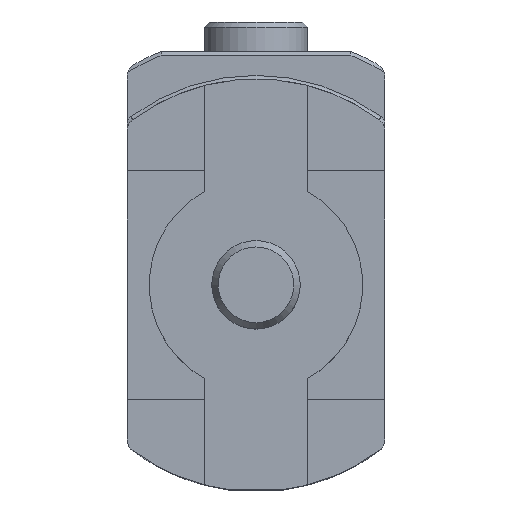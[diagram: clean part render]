
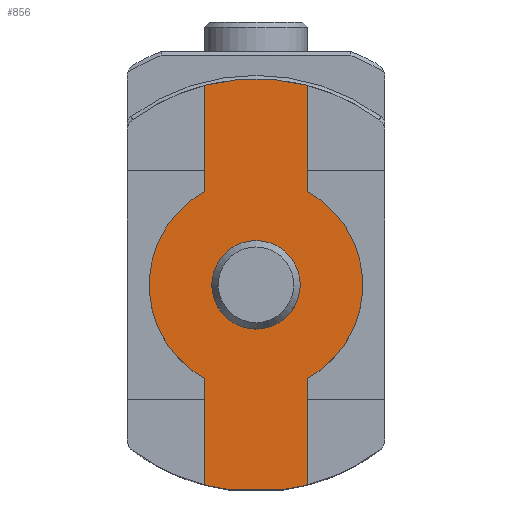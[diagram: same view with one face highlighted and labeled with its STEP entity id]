
A CAD part, top view. The second image highlights one B-rep face of the part: STEP entity #856.
In plain terms, the highlighted planar face has unit normal (0, 0, 1).
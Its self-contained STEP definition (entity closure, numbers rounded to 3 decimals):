
#7 = ORIENTED_EDGE ( 'NONE', *, *, #1195, .T. ) ;
#45 = CIRCLE ( 'NONE', #1718, 14.5 ) ;
#52 = CIRCLE ( 'NONE', #95, 28. ) ;
#63 = DIRECTION ( 'NONE',  ( 0., 0., 1. ) ) ;
#76 = DIRECTION ( 'NONE',  ( 1., 0., 0. ) ) ;
#88 = EDGE_CURVE ( 'NONE', #1510, #1030, #1877, .T. ) ;
#95 = AXIS2_PLACEMENT_3D ( 'NONE', #269, #1270, #2079 ) ;
#101 = DIRECTION ( 'NONE',  ( 1., 0., 0. ) ) ;
#115 = CARTESIAN_POINT ( 'NONE',  ( 7., -12.698, 45.5 ) ) ;
#149 = VERTEX_POINT ( 'NONE', #271 ) ;
#226 = CARTESIAN_POINT ( 'NONE',  ( 7., 12.698, 45.5 ) ) ;
#250 = ORIENTED_EDGE ( 'NONE', *, *, #945, .T. ) ;
#269 = CARTESIAN_POINT ( 'NONE',  ( 0., 0., 45.5 ) ) ;
#271 = CARTESIAN_POINT ( 'NONE',  ( 7., 27.111, 45.5 ) ) ;
#306 = LINE ( 'NONE', #1099, #1986 ) ;
#310 = CIRCLE ( 'NONE', #683, 5. ) ;
#314 = VECTOR ( 'NONE', #815, 1000. ) ;
#459 = VERTEX_POINT ( 'NONE', #226 ) ;
#490 = EDGE_CURVE ( 'NONE', #649, #459, #1052, .T. ) ;
#525 = EDGE_CURVE ( 'NONE', #2553, #2553, #310, .T. ) ;
#532 = CARTESIAN_POINT ( 'NONE',  ( -7., 12.698, 45.5 ) ) ;
#537 = CARTESIAN_POINT ( 'NONE',  ( -3.733, -27.75, 45.5 ) ) ;
#563 = VECTOR ( 'NONE', #1967, 1000. ) ;
#601 = PLANE ( 'NONE',  #2535 ) ;
#633 = CARTESIAN_POINT ( 'NONE',  ( 7., 12.698, 45.5 ) ) ;
#649 = VERTEX_POINT ( 'NONE', #115 ) ;
#683 = AXIS2_PLACEMENT_3D ( 'NONE', #1238, #2049, #101 ) ;
#691 = ORIENTED_EDGE ( 'NONE', *, *, #490, .T. ) ;
#771 = AXIS2_PLACEMENT_3D ( 'NONE', #2085, #2246, #1224 ) ;
#775 = EDGE_CURVE ( 'NONE', #1096, #2162, #306, .T. ) ;
#782 = ORIENTED_EDGE ( 'NONE', *, *, #1530, .T. ) ;
#801 = VECTOR ( 'NONE', #2501, 1000. ) ;
#815 = DIRECTION ( 'NONE',  ( 0., 1., 0. ) ) ;
#854 = CARTESIAN_POINT ( 'NONE',  ( 0., 0., 45.5 ) ) ;
#856 = ADVANCED_FACE ( 'NONE', ( #999, #1375 ), #601, .T. ) ;
#875 = DIRECTION ( 'NONE',  ( 1., 0., 0. ) ) ;
#932 = LINE ( 'NONE', #1745, #563 ) ;
#945 = EDGE_CURVE ( 'NONE', #149, #1673, #1395, .T. ) ;
#948 = ORIENTED_EDGE ( 'NONE', *, *, #2351, .T. ) ;
#987 = ORIENTED_EDGE ( 'NONE', *, *, #88, .T. ) ;
#999 = FACE_BOUND ( 'NONE', #2229, .T. ) ;
#1030 = VERTEX_POINT ( 'NONE', #1293 ) ;
#1052 = CIRCLE ( 'NONE', #1818, 14.5 ) ;
#1082 = ORIENTED_EDGE ( 'NONE', *, *, #525, .F. ) ;
#1096 = VERTEX_POINT ( 'NONE', #537 ) ;
#1099 = CARTESIAN_POINT ( 'NONE',  ( -3.733, -27.75, 45.5 ) ) ;
#1124 = CIRCLE ( 'NONE', #2225, 28. ) ;
#1170 = DIRECTION ( 'NONE',  ( 0., 0., 1. ) ) ;
#1195 = EDGE_CURVE ( 'NONE', #459, #149, #1426, .T. ) ;
#1208 = DIRECTION ( 'NONE',  ( 1., 0., 0. ) ) ;
#1224 = DIRECTION ( 'NONE',  ( 1., 0., 0. ) ) ;
#1238 = CARTESIAN_POINT ( 'NONE',  ( 0., 0., 45.5 ) ) ;
#1241 = CARTESIAN_POINT ( 'NONE',  ( -7., -27.111, 45.5 ) ) ;
#1270 = DIRECTION ( 'NONE',  ( 0., 0., 1. ) ) ;
#1273 = CARTESIAN_POINT ( 'NONE',  ( 7., -27.111, 45.5 ) ) ;
#1293 = CARTESIAN_POINT ( 'NONE',  ( -7., -27.111, 45.5 ) ) ;
#1299 = DIRECTION ( 'NONE',  ( 0., 0., 1. ) ) ;
#1312 = DIRECTION ( 'NONE',  ( 1., 0., 0. ) ) ;
#1325 = CARTESIAN_POINT ( 'NONE',  ( 7., -27.111, 45.5 ) ) ;
#1332 = EDGE_CURVE ( 'NONE', #1857, #649, #2307, .T. ) ;
#1375 = FACE_OUTER_BOUND ( 'NONE', #2534, .T. ) ;
#1395 = CIRCLE ( 'NONE', #771, 28. ) ;
#1403 = CARTESIAN_POINT ( 'NONE',  ( 0., 0., 45.5 ) ) ;
#1414 = DIRECTION ( 'NONE',  ( 1., 0., 0. ) ) ;
#1426 = LINE ( 'NONE', #633, #314 ) ;
#1510 = VERTEX_POINT ( 'NONE', #2362 ) ;
#1530 = EDGE_CURVE ( 'NONE', #1673, #1844, #932, .T. ) ;
#1557 = ORIENTED_EDGE ( 'NONE', *, *, #2579, .T. ) ;
#1673 = VERTEX_POINT ( 'NONE', #2222 ) ;
#1693 = CARTESIAN_POINT ( 'NONE',  ( 3.733, -27.75, 45.5 ) ) ;
#1718 = AXIS2_PLACEMENT_3D ( 'NONE', #854, #1299, #76 ) ;
#1743 = EDGE_CURVE ( 'NONE', #1844, #1510, #45, .T. ) ;
#1745 = CARTESIAN_POINT ( 'NONE',  ( -7., 12.698, 45.5 ) ) ;
#1767 = CARTESIAN_POINT ( 'NONE',  ( 5., 0., 45.5 ) ) ;
#1818 = AXIS2_PLACEMENT_3D ( 'NONE', #2461, #63, #875 ) ;
#1839 = ORIENTED_EDGE ( 'NONE', *, *, #775, .T. ) ;
#1844 = VERTEX_POINT ( 'NONE', #532 ) ;
#1857 = VERTEX_POINT ( 'NONE', #1325 ) ;
#1877 = LINE ( 'NONE', #1241, #801 ) ;
#1879 = ORIENTED_EDGE ( 'NONE', *, *, #1743, .T. ) ;
#1967 = DIRECTION ( 'NONE',  ( 0., -1., 0. ) ) ;
#1986 = VECTOR ( 'NONE', #1312, 1000. ) ;
#1987 = DIRECTION ( 'NONE',  ( 0., 0., 1. ) ) ;
#2049 = DIRECTION ( 'NONE',  ( 0., 0., 1. ) ) ;
#2071 = VECTOR ( 'NONE', #2515, 1000. ) ;
#2079 = DIRECTION ( 'NONE',  ( 1., 0., 0. ) ) ;
#2085 = CARTESIAN_POINT ( 'NONE',  ( 0., 0., 45.5 ) ) ;
#2162 = VERTEX_POINT ( 'NONE', #1693 ) ;
#2222 = CARTESIAN_POINT ( 'NONE',  ( -7., 27.111, 45.5 ) ) ;
#2225 = AXIS2_PLACEMENT_3D ( 'NONE', #2411, #1170, #1414 ) ;
#2229 = EDGE_LOOP ( 'NONE', ( #1082 ) ) ;
#2246 = DIRECTION ( 'NONE',  ( 0., 0., 1. ) ) ;
#2307 = LINE ( 'NONE', #1273, #2071 ) ;
#2351 = EDGE_CURVE ( 'NONE', #1030, #1096, #1124, .T. ) ;
#2362 = CARTESIAN_POINT ( 'NONE',  ( -7., -12.698, 45.5 ) ) ;
#2411 = CARTESIAN_POINT ( 'NONE',  ( 0., 0., 45.5 ) ) ;
#2461 = CARTESIAN_POINT ( 'NONE',  ( 0., 0., 45.5 ) ) ;
#2501 = DIRECTION ( 'NONE',  ( 0., -1., 0. ) ) ;
#2515 = DIRECTION ( 'NONE',  ( 0., 1., 0. ) ) ;
#2534 = EDGE_LOOP ( 'NONE', ( #691, #7, #250, #782, #1879, #987, #948, #1839, #1557, #2582 ) ) ;
#2535 = AXIS2_PLACEMENT_3D ( 'NONE', #1403, #1987, #1208 ) ;
#2553 = VERTEX_POINT ( 'NONE', #1767 ) ;
#2579 = EDGE_CURVE ( 'NONE', #2162, #1857, #52, .T. ) ;
#2582 = ORIENTED_EDGE ( 'NONE', *, *, #1332, .T. ) ;
